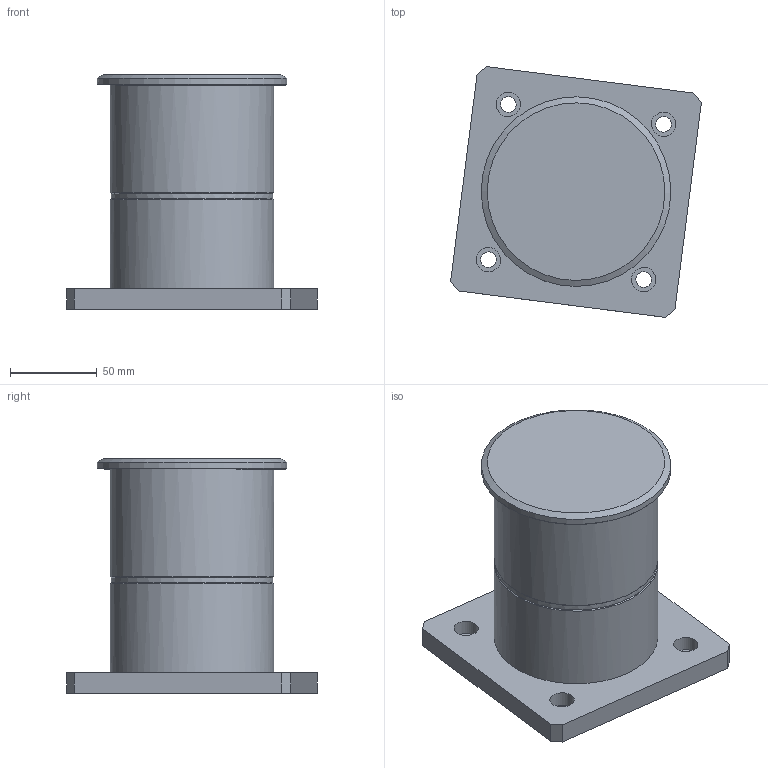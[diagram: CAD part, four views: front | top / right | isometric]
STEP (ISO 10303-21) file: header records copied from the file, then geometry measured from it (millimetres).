
FILE_DESCRIPTION(/* description */ (''),/* implementation_level */ '2;1');
FILE_NAME(/* name */ 'A:\업무자료\03. 개발\홍보자료제작\홈페이지(BKCI)\20181008 이전이력\첨부자료\STEP 파일\EFAU-15\EFFS\EFFS-15-0-SUS-S DOWN.stp',/* time_stamp */ '2018-11-30T13:43:39+09:00',/* author */ ('idt-l'),/* organization */ (''),/* preprocessor_version */ 'ST-DEVELOPER v16.13',/* originating_system */ 'Autodesk Inventor 2018',/* authorisation */ '');
FILE_SCHEMA (('AUTOMOTIVE_DESIGN { 1 0 10303 214 3 1 1 }'));
Length unit declared in the file: inch
Products named in the file (1): EFFS-15-0-SUS-S DOWN
Bounding box: 144.17 x 144.17 x 135.03 mm (x, y, z)
Volume: 1062233.8 mm3; surface area: 82671 mm2
Topology: 1 solids, 1 shells, 34 faces, 72 edges, 47 vertices
Faces by surface type: plane 17, cylinder 13, cone 4
Full cylindrical faces by diameter (mm): 9 x4, 14 x4, 93 x1, 94 x2, 94.2 x1, 109 x1
Entity records: 920 total; most frequent: DIRECTION 150, CARTESIAN_POINT 131, ORIENTED_EDGE 104, EDGE_LOOP 66, AXIS2_PLACEMENT_3D 63, EDGE_CURVE 52, VERTEX_POINT 44, STYLED_ITEM 35
